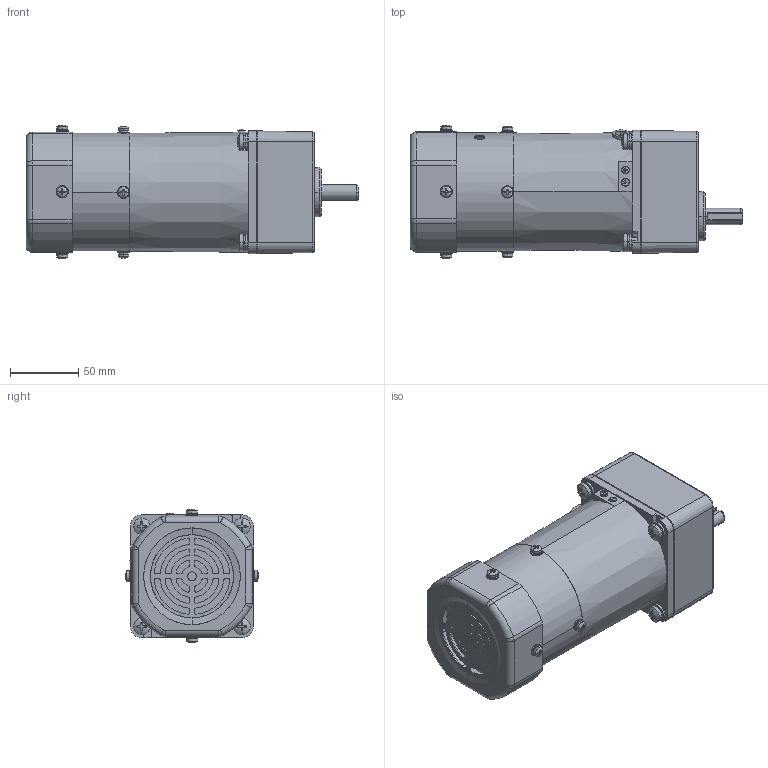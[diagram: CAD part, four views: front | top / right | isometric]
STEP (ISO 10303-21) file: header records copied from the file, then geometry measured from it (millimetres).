
FILE_DESCRIPTION (( 'STEP AP203' ), '1' );
FILE_NAME ('5RK60GN-CMF(5GN3K-18K).STEP', '2020-04-09T08:39:31', ( 'Windows 蚚誧' ), ( '' ), 'SwSTEP 2.0', 'SolidWorks 2019', '' );
FILE_SCHEMA (( 'CONFIG_CONTROL_DESIGN' ));
Length unit declared in the file: millimetre
Products named in the file (7): 5RK60GN-CMF(5GN3K-18K); 5RK40A-CM.stp; M3; 5RK40A-CM; 90FZ; 5RK60A-CMF; 5GN3K-18K
Assembly tree (6 placements, depth 4):
  5RK60GN-CMF(5GN3K-18K)
    5RK60A-CMF
      5RK40A-CM
        5RK40A-CM.stp
        M3
      90FZ
    5GN3K-18K
Bounding box: 243.5 x 98.11 x 98.11 mm (x, y, z)
Volume: 1005577.8 mm3; surface area: 176713.9 mm2
Topology: 60 solids, 60 shells, 1499 faces, 3805 edges, 2457 vertices
Faces by surface type: cylinder 635, plane 587, cone 128, sphere 70, torus 59, bspline 20
Entity records: 48685 total; most frequent: CARTESIAN_POINT 10513, DIRECTION 8499, ORIENTED_EDGE 7558, EDGE_CURVE 3779, AXIS2_PLACEMENT_3D 3450, VERTEX_POINT 2457, CIRCLE 1960, EDGE_LOOP 1648
